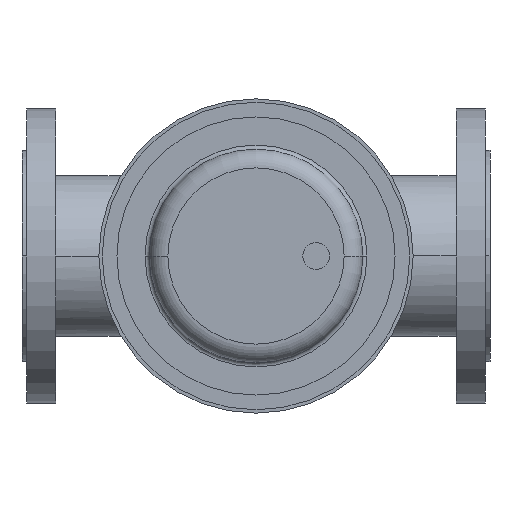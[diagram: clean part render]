
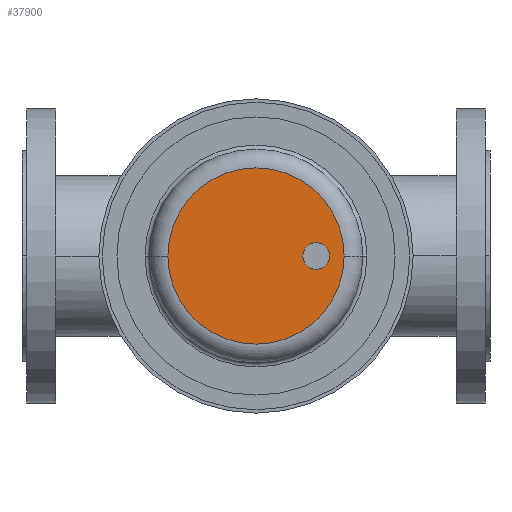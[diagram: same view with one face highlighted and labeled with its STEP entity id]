
A CAD part, front view. The second image highlights one B-rep face of the part: STEP entity #37900.
In plain terms, the highlighted planar face has unit normal (0, -1, 0).
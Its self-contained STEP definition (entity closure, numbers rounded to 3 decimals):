
#37400=CARTESIAN_POINT('',(109.07,-547.,0.));
#37410=VERTEX_POINT('',#37400);
#37510=CARTESIAN_POINT('',(240.93,-547.,0.));
#37520=VERTEX_POINT('',#37510);
#37550=CARTESIAN_POINT('',(175.,-547.,0.));
#37560=DIRECTION('',(0.,1.,0.));
#37570=DIRECTION('',(1.,0.,0.));
#37580=AXIS2_PLACEMENT_3D('',#37550,#37560,#37570);
#37590=CIRCLE('',#37580,65.93);
#37600=EDGE_CURVE('',#37410,#37520,#37590,.T.);
#37650=CARTESIAN_POINT('',(207.965,-547.,0.));
#37660=DIRECTION('',(0.,-1.,0.));
#37670=DIRECTION('',(-1.,0.,0.));
#37680=AXIS2_PLACEMENT_3D('',#37650,#37660,#37670);
#37690=PLANE('',#37680);
#37700=CARTESIAN_POINT('',(220.,-547.,0.));
#37710=DIRECTION('',(0.,1.,0.));
#37720=DIRECTION('',(1.,0.,0.));
#37730=AXIS2_PLACEMENT_3D('',#37700,#37710,#37720);
#37740=CIRCLE('',#37730,10.);
#37750=CARTESIAN_POINT('',(210.,-547.,0.));
#37760=VERTEX_POINT('',#37750);
#37770=CARTESIAN_POINT('',(230.,-547.,0.));
#37780=VERTEX_POINT('',#37770);
#37790=EDGE_CURVE('',#37760,#37780,#37740,.T.);
#37800=ORIENTED_EDGE('',*,*,#37790,.T.);
#37810=EDGE_CURVE('',#37780,#37760,#37740,.T.);
#37820=ORIENTED_EDGE('',*,*,#37810,.T.);
#37830=EDGE_LOOP('',(#37820,#37800));
#37840=FACE_BOUND('',#37830,.T.);
#37850=EDGE_CURVE('',#37520,#37410,#37590,.T.);
#37860=ORIENTED_EDGE('',*,*,#37850,.F.);
#37870=ORIENTED_EDGE('',*,*,#37600,.F.);
#37880=EDGE_LOOP('',(#37870,#37860));
#37890=FACE_OUTER_BOUND('',#37880,.T.);
#37900=ADVANCED_FACE('',(#37840,#37890),#37690,.T.);
